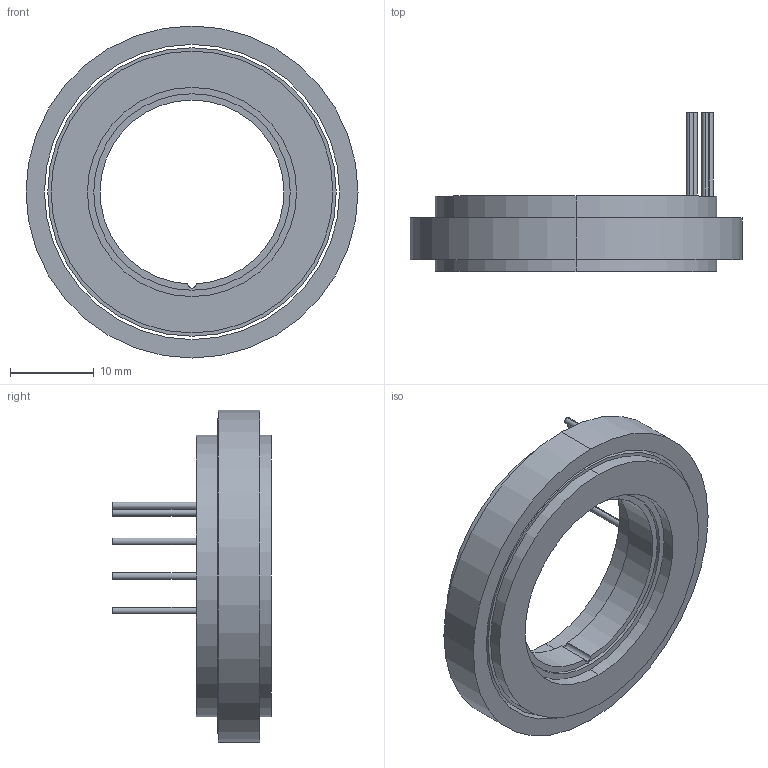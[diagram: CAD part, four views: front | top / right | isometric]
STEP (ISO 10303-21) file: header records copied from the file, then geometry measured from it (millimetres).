
FILE_DESCRIPTION (( 'STEP AP214' ), '1' );
FILE_NAME ('UE4009µç»ú.STEP', '2026-03-11T05:40:22', ( 'Windows User' ), ( 'P R C' ), 'SwSTEP 2.0', 'SolidWorks 2023', '' );
FILE_SCHEMA (( 'AUTOMOTIVE_DESIGN' ));
Length unit declared in the file: millimetre
Products named in the file (1): UE4009电机
Bounding box: 39.7 x 19 x 39.7 mm (x, y, z)
Volume: 5622.5 mm3; surface area: 4563.3 mm2
Topology: 2 solids, 2 shells, 49 faces, 99 edges, 66 vertices
Faces by surface type: cylinder 33, plane 16
Entity records: 1359 total; most frequent: DIRECTION 265, CARTESIAN_POINT 215, ORIENTED_EDGE 198, AXIS2_PLACEMENT_3D 116, EDGE_CURVE 99, CIRCLE 66, VERTEX_POINT 66, EDGE_LOOP 65
